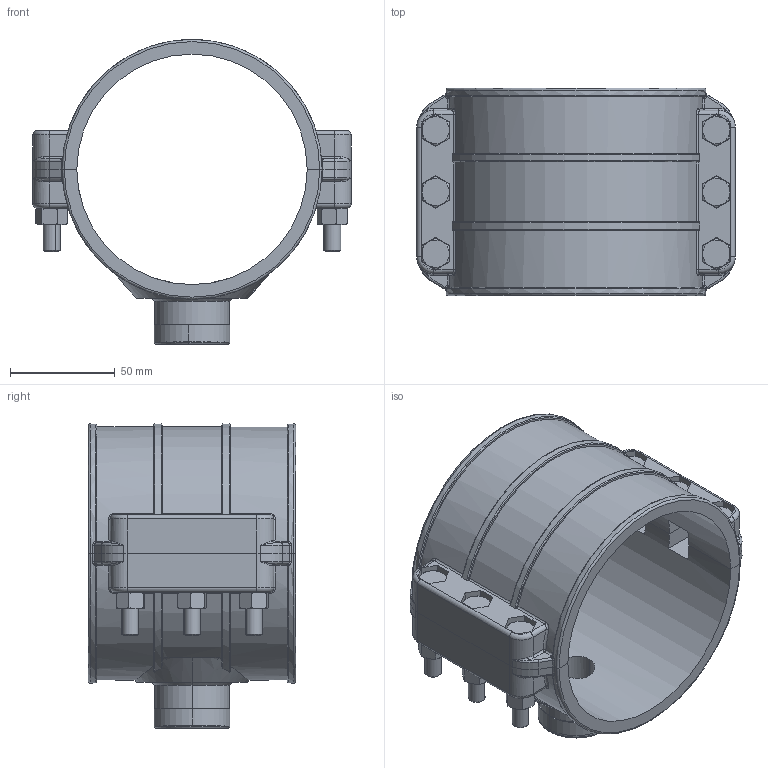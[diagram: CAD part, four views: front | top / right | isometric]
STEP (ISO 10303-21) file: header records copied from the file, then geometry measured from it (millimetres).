
FILE_DESCRIPTION (( 'STEP AP214' ), '1' );
FILE_NAME ('158001071 - Staffa 110 - 1-2''''.STEP', '2021-11-22T15:53:28', ( '' ), ( '' ), 'SwSTEP 2.0', 'SolidWorks 2021', '' );
FILE_SCHEMA (( 'AUTOMOTIVE_DESIGN' ));
Length unit declared in the file: millimetre
Products named in the file (1): 158001071 - Staffa 110 - 1-2''''
Bounding box: 152 x 99 x 145.6 mm (x, y, z)
Volume: 316353.4 mm3; surface area: 124918.9 mm2
Topology: 15 solids, 15 shells, 885 faces, 2169 edges, 1320 vertices
Faces by surface type: plane 379, cylinder 186, cone 151, bspline 91, torus 70, sphere 8
Entity records: 41979 total; most frequent: CARTESIAN_POINT 12187, ORIENTED_EDGE 4306, DIRECTION 3908, EDGE_CURVE 2153, AXIS2_PLACEMENT_3D 1484, VERTEX_POINT 1320, EDGE_LOOP 947, LINE 940
